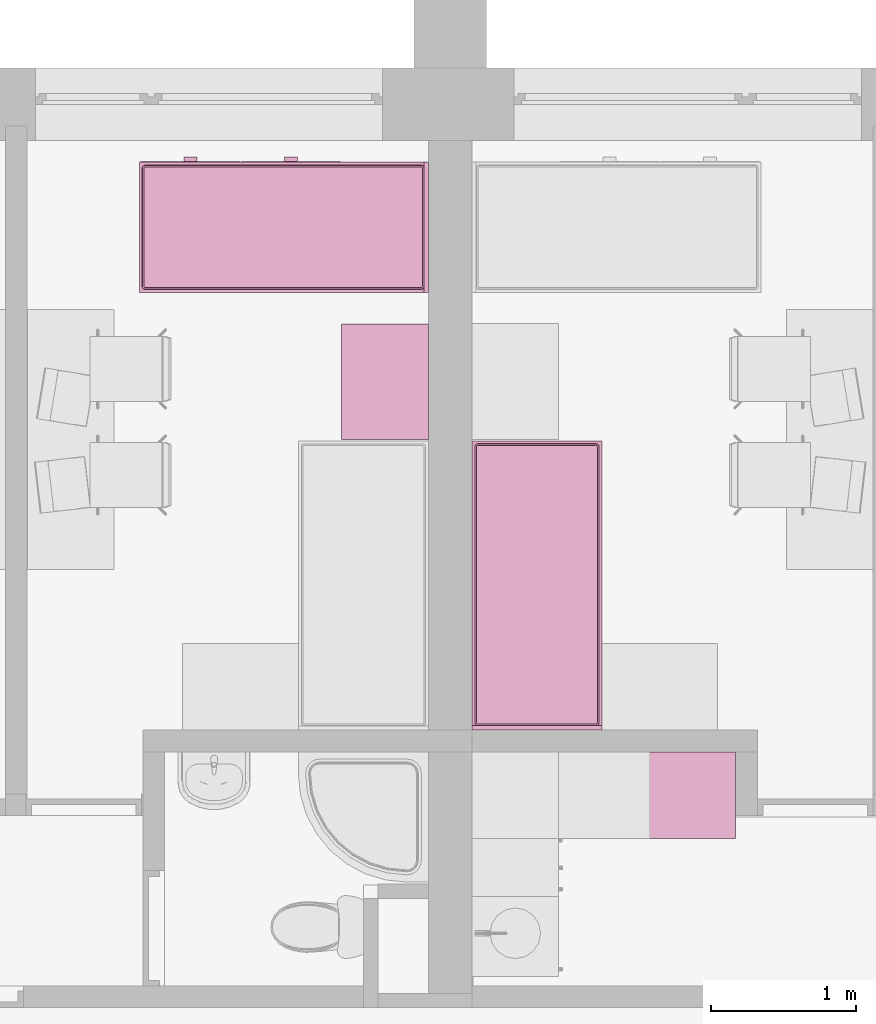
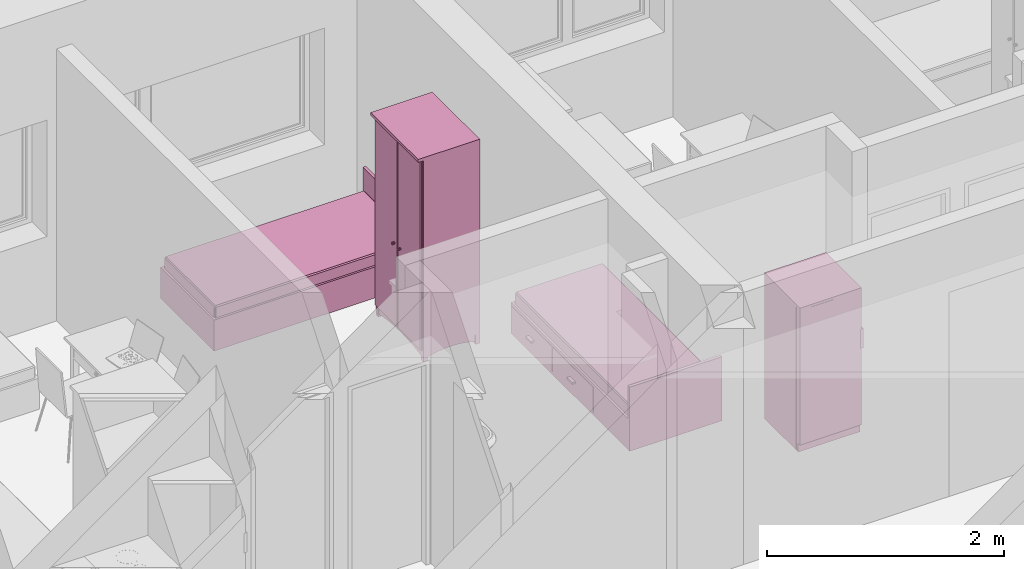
# One storey, part 94 of 165: 4 furnishings.
"""IFC2X3 building model written with IfcOpenShell, lengths in millimetres."""

from ifc_helpers import new_model, entity, si_unit, converted_unit, money_unit, direction, frame, origin_with_axes, place, context, subcontext, project, spatial, open_shell, faceted_brep, surface_model, source, transform, mapped, material, material_list, type_object, element, save


model = new_model("IFC2X3")

# Units and contexts
model_context = context("Model", 3, precision=1e-05, world=origin_with_axes(), true_north=direction((0.0, 1.0)))
body_context = subcontext(model_context, "Body", "Model", "MODEL_VIEW")
ifc_project = project(units=[si_unit("LENGTHUNIT", "METRE", prefix="MILLI"), si_unit("AREAUNIT", "SQUARE_METRE"), si_unit("VOLUMEUNIT", "CUBIC_METRE"), converted_unit("PLANEANGLEUNIT", "DEGREE", entity("IfcPlaneAngleMeasure", 0.0174532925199), si_unit("PLANEANGLEUNIT", "RADIAN"), dimensions=[0, 0, 0, 0, 0, 0, 0]), si_unit("SOLIDANGLEUNIT", "STERADIAN"), money_unit("USD"), converted_unit("TIMEUNIT", "Year", entity("IfcTimeMeasure", 31556926.0), si_unit("TIMEUNIT", "SECOND"), dimensions=[0, 0, 0, 0, 0, 0, 0]), si_unit("MASSUNIT", "GRAM"), si_unit("THERMODYNAMICTEMPERATUREUNIT", "DEGREE_CELSIUS"), si_unit("LUMINOUSINTENSITYUNIT", "LUMEN")], contexts=[model_context])

# Site, building, storey
site_placement = place(None, origin_with_axes())
site = spatial("IfcSite", under=ifc_project, at=site_placement, Name="Site", CompositionType="ELEMENT")
building_placement = place(site_placement, origin_with_axes())
building = spatial("IfcBuilding", under=site, at=building_placement, Name="Building", CompositionType="ELEMENT")
storey_placement = place(building_placement, frame((0.0, 0.0, 6300.0), z_axis=(0.0, 0.0, 1.0), x_axis=(1.0, 0.0, 0.0)))
storey = spatial("IfcBuildingStorey", under=building, at=storey_placement, Name="4KORRUS", CompositionType="ELEMENT", Elevation=6300.0)

# Furnishings
ifc_material = material(Name="Background")
ifc_material_list = material_list([ifc_material])
furnishing_element_type_1 = type_object("IfcFurnishingElementType", Name="Bed 19")
shared_shape_1 = source(origin_with_axes(), body_context, "Body", "Brep", [
    faceted_brep([(900.0, 1970.0, 0.0), (0.0, 1970.0, 0.0), (0.0, 2000.0, 0.0), (900.0, 2000.0, 0.0), (900.0, 1970.0, 660.0), (0.0, 1970.0, 660.0), (0.0, 2000.0, 660.0), (900.0, 2000.0, 660.0)], [[[0, 1, 2, 3]], [[1, 0, 4, 5]], [[2, 1, 5, 6]], [[3, 2, 6, 7]], [[0, 3, 7, 4]], [[5, 4, 7, 6]]]),
    faceted_brep([(900.0, 0.0, 0.0), (0.0, 0.0, 0.0), (0.0, 1970.0, 0.0), (900.0, 1970.0, 0.0), (900.0, 0.0, 320.0), (0.0, 0.0, 320.0), (0.0, 1970.0, 320.0), (900.0, 1970.0, 320.0)], [[[0, 1, 2, 3]], [[1, 0, 4, 5]], [[2, 1, 5, 6]], [[3, 2, 6, 7]], [[0, 3, 7, 4]], [[5, 4, 7, 6]]]),
    faceted_brep([(905.0, 10.0, 30.0), (900.0, 10.0, 30.0), (900.0, 695.0, 30.0), (905.0, 695.0, 30.0), (905.0, 10.0, 290.0), (900.0, 10.0, 290.0), (900.0, 695.0, 290.0), (905.0, 695.0, 290.0)], [[[0, 1, 2, 3]], [[1, 0, 4, 5]], [[2, 1, 5, 6]], [[3, 2, 6, 7]], [[0, 3, 7, 4]], [[5, 4, 7, 6]]]),
    faceted_brep([(935.0, 307.5, 150.0), (905.0, 307.5, 150.0), (905.0, 397.5, 150.0), (935.0, 397.5, 150.0), (935.0, 307.5, 170.0), (905.0, 307.5, 170.0), (905.0, 397.5, 170.0), (935.0, 397.5, 170.0)], [[[0, 1, 2, 3]], [[1, 0, 4, 5]], [[2, 1, 5, 6]], [[3, 2, 6, 7]], [[0, 3, 7, 4]], [[5, 4, 7, 6]]]),
    faceted_brep([(905.0, 705.0, 30.0), (900.0, 705.0, 30.0), (900.0, 1390.0, 30.0), (905.0, 1390.0, 30.0), (905.0, 705.0, 290.0), (900.0, 705.0, 290.0), (900.0, 1390.0, 290.0), (905.0, 1390.0, 290.0)], [[[0, 1, 2, 3]], [[1, 0, 4, 5]], [[2, 1, 5, 6]], [[3, 2, 6, 7]], [[0, 3, 7, 4]], [[5, 4, 7, 6]]]),
    faceted_brep([(935.0, 1002.5, 150.0), (905.0, 1002.5, 150.0), (905.0, 1092.5, 150.0), (935.0, 1092.5, 150.0), (935.0, 1002.5, 170.0), (905.0, 1002.5, 170.0), (905.0, 1092.5, 170.0), (935.0, 1092.5, 170.0)], [[[0, 1, 2, 3]], [[1, 0, 4, 5]], [[2, 1, 5, 6]], [[3, 2, 6, 7]], [[0, 3, 7, 4]], [[5, 4, 7, 6]]]),
    faceted_brep([(20.0, 40.0, 350.0), (20.0, 1950.0, 350.0), (21.522, 1957.654, 350.0), (25.858, 1964.142, 350.0), (32.346, 1968.478, 350.0), (40.0, 1970.0, 350.0), (860.0, 1970.0, 350.0), (867.654, 1968.478, 350.0), (874.142, 1964.142, 350.0), (878.478, 1957.654, 350.0), (880.0, 1950.0, 350.0), (880.0, 40.0, 350.0), (878.478, 32.346, 350.0), (874.142, 25.858, 350.0), (867.654, 21.522, 350.0), (860.0, 20.0, 350.0), (40.0, 20.0, 350.0), (32.346, 21.522, 350.0), (25.858, 25.858, 350.0), (21.522, 32.346, 350.0), (20.0, 40.0, 420.0), (20.0, 1950.0, 420.0), (21.522, 1957.654, 420.0), (25.858, 1964.142, 420.0), (32.346, 1968.478, 420.0), (40.0, 1970.0, 420.0), (860.0, 1970.0, 420.0), (867.654, 1968.478, 420.0), (874.142, 1964.142, 420.0), (878.478, 1957.654, 420.0), (880.0, 1950.0, 420.0), (880.0, 40.0, 420.0), (878.478, 32.346, 420.0), (874.142, 25.858, 420.0), (867.654, 21.522, 420.0), (860.0, 20.0, 420.0), (40.0, 20.0, 420.0), (32.346, 21.522, 420.0), (25.858, 25.858, 420.0), (21.522, 32.346, 420.0), (21.522, 40.15, 427.654), (21.522, 1949.85, 427.654), (22.956, 1957.06, 427.654), (26.955, 1963.045, 427.654), (32.94, 1967.044, 427.654), (40.15, 1968.478, 427.654), (859.85, 1968.478, 427.654), (867.06, 1967.044, 427.654), (873.045, 1963.045, 427.654), (877.044, 1957.06, 427.654), (878.478, 1949.85, 427.654), (878.478, 40.15, 427.654), (877.044, 32.94, 427.654), (873.045, 26.955, 427.654), (867.06, 22.956, 427.654), (859.85, 21.522, 427.654), (40.15, 21.522, 427.654), (32.94, 22.956, 427.654), (26.955, 26.955, 427.654), (22.956, 32.94, 427.654), (32.346, 41.216, 438.478), (32.346, 1948.784, 438.478), (33.152, 1952.836, 438.478), (34.759, 1955.241, 438.478), (37.164, 1956.848, 438.478), (41.216, 1957.654, 438.478), (858.784, 1957.654, 438.478), (862.836, 1956.848, 438.478), (865.241, 1955.241, 438.478), (866.848, 1952.836, 438.478), (867.654, 1948.784, 438.478), (867.654, 41.216, 438.478), (866.848, 37.164, 438.478), (865.241, 34.759, 438.478), (862.836, 33.152, 438.478), (858.784, 32.346, 438.478), (41.216, 32.346, 438.478), (37.164, 33.152, 438.478), (34.759, 34.759, 438.478), (33.152, 37.164, 438.478), (40.0, 41.97, 440.0), (40.0, 1948.03, 440.0), (40.327, 1949.673, 440.0), (40.0, 1950.0, 439.924), (41.97, 1950.0, 440.0), (858.03, 1950.0, 440.0), (859.673, 1949.673, 440.0), (860.0, 1950.0, 439.924), (860.0, 1948.03, 440.0), (860.0, 41.97, 440.0), (859.673, 40.327, 440.0), (860.0, 40.0, 439.924), (858.03, 40.0, 440.0), (41.97, 40.0, 440.0), (40.327, 40.327, 440.0), (40.0, 40.0, 439.924)], [[[0, 1, 2, 3, 4, 5, 6, 7, 8, 9, 10, 11, 12, 13, 14, 15, 16, 17, 18, 19]], [[1, 0, 20, 21]], [[2, 1, 21, 22]], [[3, 2, 22, 23]], [[4, 3, 23, 24]], [[5, 4, 24, 25]], [[6, 5, 25, 26]], [[7, 6, 26, 27]], [[8, 7, 27, 28]], [[9, 8, 28, 29]], [[10, 9, 29, 30]], [[11, 10, 30, 31]], [[12, 11, 31, 32]], [[13, 12, 32, 33]], [[14, 13, 33, 34]], [[15, 14, 34, 35]], [[16, 15, 35, 36]], [[17, 16, 36, 37]], [[18, 17, 37, 38]], [[19, 18, 38, 39]], [[0, 19, 39, 20]], [[21, 20, 40, 41]], [[22, 21, 41, 42]], [[23, 22, 42, 43]], [[24, 23, 43, 44]], [[25, 24, 44, 45]], [[26, 25, 45, 46]], [[27, 26, 46, 47]], [[28, 27, 47, 48]], [[29, 28, 48, 49]], [[30, 29, 49, 50]], [[31, 30, 50, 51]], [[32, 31, 51, 52]], [[33, 32, 52, 53]], [[34, 33, 53, 54]], [[35, 34, 54, 55]], [[36, 35, 55, 56]], [[37, 36, 56, 57]], [[38, 37, 57, 58]], [[39, 38, 58, 59]], [[20, 39, 59, 40]], [[41, 40, 60, 61]], [[42, 41, 61, 62]], [[43, 42, 62, 63]], [[44, 43, 63, 64]], [[45, 44, 64, 65]], [[46, 45, 65, 66]], [[47, 46, 66, 67]], [[48, 47, 67, 68]], [[49, 48, 68, 69]], [[50, 49, 69, 70]], [[51, 50, 70, 71]], [[52, 51, 71, 72]], [[53, 52, 72, 73]], [[54, 53, 73, 74]], [[55, 54, 74, 75]], [[56, 55, 75, 76]], [[57, 56, 76, 77]], [[58, 57, 77, 78]], [[59, 58, 78, 79]], [[40, 59, 79, 60]], [[61, 60, 80, 81]], [[62, 61, 81, 82, 83]], [[63, 62, 83]], [[64, 63, 83]], [[65, 64, 83, 82, 84]], [[66, 65, 84, 85]], [[67, 66, 85, 86, 87]], [[68, 67, 87]], [[69, 68, 87]], [[70, 69, 87, 86, 88]], [[71, 70, 88, 89]], [[72, 71, 89, 90, 91]], [[73, 72, 91]], [[74, 73, 91]], [[75, 74, 91, 90, 92]], [[76, 75, 92, 93]], [[77, 76, 93, 94, 95]], [[78, 77, 95]], [[79, 78, 95]], [[60, 79, 95, 94, 80]], [[81, 80, 94, 93, 92, 90, 89, 88, 86, 85, 84, 82]]]),
    faceted_brep([(20.0, 40.0, 350.0), (21.522, 32.346, 350.0), (25.858, 25.858, 350.0), (32.346, 21.522, 350.0), (40.0, 20.0, 350.0), (860.0, 20.0, 350.0), (867.654, 21.522, 350.0), (874.142, 25.858, 350.0), (878.478, 32.346, 350.0), (880.0, 40.0, 350.0), (880.0, 1950.0, 350.0), (878.478, 1957.654, 350.0), (874.142, 1964.142, 350.0), (867.654, 1968.478, 350.0), (860.0, 1970.0, 350.0), (40.0, 1970.0, 350.0), (32.346, 1968.478, 350.0), (25.858, 1964.142, 350.0), (21.522, 1957.654, 350.0), (20.0, 1950.0, 350.0), (20.0, 40.0, 320.0), (21.522, 32.346, 320.0), (25.858, 25.858, 320.0), (32.346, 21.522, 320.0), (40.0, 20.0, 320.0), (860.0, 20.0, 320.0), (867.654, 21.522, 320.0), (874.142, 25.858, 320.0), (878.478, 32.346, 320.0), (880.0, 40.0, 320.0), (880.0, 1950.0, 320.0), (878.478, 1957.654, 320.0), (874.142, 1964.142, 320.0), (867.654, 1968.478, 320.0), (860.0, 1970.0, 320.0), (40.0, 1970.0, 320.0), (32.346, 1968.478, 320.0), (25.858, 1964.142, 320.0), (21.522, 1957.654, 320.0), (20.0, 1950.0, 320.0)], [[[0, 1, 2, 3, 4, 5, 6, 7, 8, 9, 10, 11, 12, 13, 14, 15, 16, 17, 18, 19]], [[0, 20, 21, 1]], [[1, 21, 22, 2]], [[2, 22, 23, 3]], [[3, 23, 24, 4]], [[4, 24, 25, 5]], [[5, 25, 26, 6]], [[6, 26, 27, 7]], [[7, 27, 28, 8]], [[8, 28, 29, 9]], [[9, 29, 30, 10]], [[10, 30, 31, 11]], [[11, 31, 32, 12]], [[12, 32, 33, 13]], [[13, 33, 34, 14]], [[14, 34, 35, 15]], [[15, 35, 36, 16]], [[16, 36, 37, 17]], [[17, 37, 38, 18]], [[18, 38, 39, 19]], [[19, 39, 20, 0]], [[20, 39, 38, 37, 36, 35, 34, 33, 32, 31, 30, 29, 28, 27, 26, 25, 24, 23, 22, 21]]]),
])
furnishing_1_placement = place(storey_placement, frame((-29090.2967033, -7216.37850445, 0.0), z_axis=(0.0, 0.0, 1.0), x_axis=(-1.0, 0.0, 0.0)))
element("IfcFurnishingElement", 1, at=furnishing_1_placement, inside=storey, type_object=furnishing_element_type_1, material=ifc_material_list, Name="FU - 013", context=body_context, shape_type="MappedRepresentation", body=[
    mapped(shared_shape_1, transform((0.0, 0.0, 0.0))),
])
furnishing_element_type_2 = type_object("IfcFurnishingElementType", Name="Cupboard 19")
shared_shape_2 = source(origin_with_axes(), body_context, "Body", "Brep", [
    faceted_brep([(-780.0, 600.0, 120.0), (-780.0, 580.0, 120.0), (-780.0, 580.0, 2050.0), (-780.0, 600.0, 2050.0), (-20.0, 600.0, 120.0), (-20.0, 580.0, 120.0), (-20.0, 580.0, 2050.0), (-20.0, 600.0, 2050.0)], [[[0, 1, 2, 3]], [[0, 4, 5, 1]], [[1, 5, 6, 2]], [[3, 2, 6, 7]], [[4, 0, 3, 7]], [[5, 4, 7, 6]]]),
    faceted_brep([(0.0, 50.0, 100.0), (-20.0, 50.0, 100.0), (-20.0, 600.0, 100.0), (0.0, 600.0, 100.0), (0.0, 50.0, 2070.0), (-20.0, 50.0, 2070.0), (-20.0, 600.0, 2070.0), (0.0, 600.0, 2070.0)], [[[0, 1, 2, 3]], [[1, 0, 4, 5]], [[2, 1, 5, 6]], [[3, 2, 6, 7]], [[0, 3, 7, 4]], [[5, 4, 7, 6]]]),
    faceted_brep([(-780.0, 50.0, 100.0), (-800.0, 50.0, 100.0), (-800.0, 600.0, 100.0), (-780.0, 600.0, 100.0), (-780.0, 50.0, 2070.0), (-800.0, 50.0, 2070.0), (-800.0, 600.0, 2070.0), (-780.0, 600.0, 2070.0)], [[[0, 1, 2, 3]], [[1, 0, 4, 5]], [[2, 1, 5, 6]], [[3, 2, 6, 7]], [[0, 3, 7, 4]], [[5, 4, 7, 6]]]),
    faceted_brep([(-20.0, 50.0, 100.0), (-780.0, 50.0, 100.0), (-780.0, 600.0, 100.0), (-20.0, 600.0, 100.0), (-20.0, 50.0, 120.0), (-780.0, 50.0, 120.0), (-780.0, 600.0, 120.0), (-20.0, 600.0, 120.0)], [[[0, 1, 2, 3]], [[1, 0, 4, 5]], [[2, 1, 5, 6]], [[3, 2, 6, 7]], [[0, 3, 7, 4]], [[5, 4, 7, 6]]]),
    faceted_brep([(-20.0, 50.0, 2050.0), (-780.0, 50.0, 2050.0), (-780.0, 600.0, 2050.0), (-20.0, 600.0, 2050.0), (-20.0, 50.0, 2070.0), (-780.0, 50.0, 2070.0), (-780.0, 600.0, 2070.0), (-20.0, 600.0, 2070.0)], [[[0, 1, 2, 3]], [[1, 0, 4, 5]], [[2, 1, 5, 6]], [[3, 2, 6, 7]], [[0, 3, 7, 4]], [[5, 4, 7, 6]]]),
    faceted_brep([(0.0, 600.0, 2070.0), (0.0, 600.0, 2100.0), (0.0, 0.0, 2100.0), (0.0, 0.0, 2070.0), (-800.0, 600.0, 2070.0), (-800.0, 600.0, 2100.0), (-800.0, 0.0, 2100.0), (-800.0, 0.0, 2070.0)], [[[0, 1, 2, 3]], [[4, 5, 1, 0]], [[1, 5, 6, 2]], [[3, 2, 6, 7]], [[0, 3, 7, 4]], [[7, 6, 5, 4]]]),
    faceted_brep([(-760.0, 590.0, 25.0), (-640.962, 590.0, 45.8), (-640.962, 570.0, 45.8), (-760.0, 570.0, 25.0), (-760.0, 590.0, 100.0), (-40.0, 590.0, 100.0), (-40.0, 590.0, 25.0), (-159.038, 590.0, 45.8), (-279.23, 590.0, 58.32), (-400.0, 590.0, 62.5), (-520.77, 590.0, 58.32), (-520.77, 570.0, 58.32), (-400.0, 570.0, 62.5), (-279.23, 570.0, 58.32), (-159.038, 570.0, 45.8), (-40.0, 570.0, 25.0), (-40.0, 570.0, 100.0), (-760.0, 570.0, 100.0)], [[[0, 1, 2, 3]], [[0, 4, 5, 6, 7, 8, 9, 10, 1]], [[1, 10, 11, 2]], [[3, 2, 11, 12, 13, 14, 15, 16, 17]], [[4, 0, 3, 17]], [[5, 4, 17, 16]], [[6, 5, 16, 15]], [[7, 6, 15, 14]], [[8, 7, 14, 13]], [[9, 8, 13, 12]], [[10, 9, 12, 11]]]),
    faceted_brep([(-760.0, 80.0, 25.0), (-640.962, 80.0, 45.8), (-640.962, 60.0, 45.8), (-760.0, 60.0, 25.0), (-760.0, 80.0, 100.0), (-40.0, 80.0, 100.0), (-40.0, 80.0, 25.0), (-159.038, 80.0, 45.8), (-279.23, 80.0, 58.32), (-400.0, 80.0, 62.5), (-520.77, 80.0, 58.32), (-520.77, 60.0, 58.32), (-400.0, 60.0, 62.5), (-279.23, 60.0, 58.32), (-159.038, 60.0, 45.8), (-40.0, 60.0, 25.0), (-40.0, 60.0, 100.0), (-760.0, 60.0, 100.0)], [[[0, 1, 2, 3]], [[0, 4, 5, 6, 7, 8, 9, 10, 1]], [[1, 10, 11, 2]], [[3, 2, 11, 12, 13, 14, 15, 16, 17]], [[4, 0, 3, 17]], [[5, 4, 17, 16]], [[6, 5, 16, 15]], [[7, 6, 15, 14]], [[8, 7, 14, 13]], [[9, 8, 13, 12]], [[10, 9, 12, 11]]]),
    faceted_brep([(-790.0, 90.0, 25.0), (-790.0, 141.266, 38.072), (-770.0, 141.266, 38.072), (-770.0, 90.0, 25.0), (-790.0, 90.0, 100.0), (-790.0, 560.0, 100.0), (-790.0, 560.0, 25.0), (-790.0, 508.734, 38.072), (-790.0, 456.752, 47.92), (-790.0, 404.257, 54.508), (-790.0, 351.453, 57.808), (-790.0, 298.547, 57.808), (-790.0, 245.743, 54.508), (-790.0, 193.248, 47.92), (-770.0, 193.248, 47.92), (-770.0, 245.743, 54.508), (-770.0, 298.547, 57.808), (-770.0, 351.453, 57.808), (-770.0, 404.257, 54.508), (-770.0, 456.752, 47.92), (-770.0, 508.734, 38.072), (-770.0, 560.0, 25.0), (-770.0, 560.0, 100.0), (-770.0, 90.0, 100.0)], [[[0, 1, 2, 3]], [[0, 4, 5, 6, 7, 8, 9, 10, 11, 12, 13, 1]], [[1, 13, 14, 2]], [[3, 2, 14, 15, 16, 17, 18, 19, 20, 21, 22, 23]], [[4, 0, 3, 23]], [[5, 4, 23, 22]], [[6, 5, 22, 21]], [[7, 6, 21, 20]], [[8, 7, 20, 19]], [[9, 8, 19, 18]], [[10, 9, 18, 17]], [[11, 10, 17, 16]], [[12, 11, 16, 15]], [[13, 12, 15, 14]]]),
    faceted_brep([(-30.0, 90.0, 25.0), (-30.0, 141.266, 38.072), (-10.0, 141.266, 38.072), (-10.0, 90.0, 25.0), (-30.0, 90.0, 100.0), (-30.0, 560.0, 100.0), (-30.0, 560.0, 25.0), (-30.0, 508.734, 38.072), (-30.0, 456.752, 47.92), (-30.0, 404.257, 54.508), (-30.0, 351.453, 57.808), (-30.0, 298.547, 57.808), (-30.0, 245.743, 54.508), (-30.0, 193.248, 47.92), (-10.0, 193.248, 47.92), (-10.0, 245.743, 54.508), (-10.0, 298.547, 57.808), (-10.0, 351.453, 57.808), (-10.0, 404.257, 54.508), (-10.0, 456.752, 47.92), (-10.0, 508.734, 38.072), (-10.0, 560.0, 25.0), (-10.0, 560.0, 100.0), (-10.0, 90.0, 100.0)], [[[0, 1, 2, 3]], [[0, 4, 5, 6, 7, 8, 9, 10, 11, 12, 13, 1]], [[1, 13, 14, 2]], [[3, 2, 14, 15, 16, 17, 18, 19, 20, 21, 22, 23]], [[4, 0, 3, 23]], [[5, 4, 23, 22]], [[6, 5, 22, 21]], [[7, 6, 21, 20]], [[8, 7, 20, 19]], [[9, 8, 19, 18]], [[10, 9, 18, 17]], [[11, 10, 17, 16]], [[12, 11, 16, 15]], [[13, 12, 15, 14]]]),
    faceted_brep([(-760.0, 560.0, 0.0), (-760.0, 600.0, 0.0), (-760.0, 600.0, 100.0), (-760.0, 560.0, 100.0), (-800.0, 560.0, 0.0), (-800.0, 600.0, 0.0), (-800.0, 600.0, 100.0), (-800.0, 560.0, 100.0)], [[[0, 1, 2, 3]], [[0, 4, 5, 1]], [[1, 5, 6, 2]], [[3, 2, 6, 7]], [[4, 0, 3, 7]], [[5, 4, 7, 6]]]),
    faceted_brep([(0.0, 560.0, 0.0), (0.0, 600.0, 0.0), (0.0, 600.0, 100.0), (0.0, 560.0, 100.0), (-40.0, 560.0, 0.0), (-40.0, 600.0, 0.0), (-40.0, 600.0, 100.0), (-40.0, 560.0, 100.0)], [[[0, 1, 2, 3]], [[0, 4, 5, 1]], [[1, 5, 6, 2]], [[3, 2, 6, 7]], [[4, 0, 3, 7]], [[5, 4, 7, 6]]]),
    faceted_brep([(-760.0, 50.0, 0.0), (-760.0, 90.0, 0.0), (-760.0, 90.0, 100.0), (-760.0, 50.0, 100.0), (-800.0, 50.0, 0.0), (-800.0, 90.0, 0.0), (-800.0, 90.0, 100.0), (-800.0, 50.0, 100.0)], [[[0, 1, 2, 3]], [[0, 4, 5, 1]], [[1, 5, 6, 2]], [[3, 2, 6, 7]], [[4, 0, 3, 7]], [[5, 4, 7, 6]]]),
    faceted_brep([(0.0, 50.0, 0.0), (0.0, 90.0, 0.0), (0.0, 90.0, 100.0), (0.0, 50.0, 100.0), (-40.0, 50.0, 0.0), (-40.0, 90.0, 0.0), (-40.0, 90.0, 100.0), (-40.0, 50.0, 100.0)], [[[0, 1, 2, 3]], [[0, 4, 5, 1]], [[1, 5, 6, 2]], [[3, 2, 6, 7]], [[4, 0, 3, 7]], [[5, 4, 7, 6]]]),
    faceted_brep([(-780.0, 580.0, 587.5), (-780.0, 50.0, 587.5), (-780.0, 50.0, 607.5), (-780.0, 580.0, 607.5), (-20.0, 580.0, 587.5), (-20.0, 50.0, 587.5), (-20.0, 50.0, 607.5), (-20.0, 580.0, 607.5)], [[[0, 1, 2, 3]], [[0, 4, 5, 1]], [[1, 5, 6, 2]], [[3, 2, 6, 7]], [[4, 0, 3, 7]], [[5, 4, 7, 6]]]),
    faceted_brep([(-780.0, 580.0, 1075.0), (-780.0, 50.0, 1075.0), (-780.0, 50.0, 1095.0), (-780.0, 580.0, 1095.0), (-20.0, 580.0, 1075.0), (-20.0, 50.0, 1075.0), (-20.0, 50.0, 1095.0), (-20.0, 580.0, 1095.0)], [[[0, 1, 2, 3]], [[0, 4, 5, 1]], [[1, 5, 6, 2]], [[3, 2, 6, 7]], [[4, 0, 3, 7]], [[5, 4, 7, 6]]]),
    faceted_brep([(-780.0, 580.0, 1562.5), (-780.0, 50.0, 1562.5), (-780.0, 50.0, 1582.5), (-780.0, 580.0, 1582.5), (-20.0, 580.0, 1562.5), (-20.0, 50.0, 1562.5), (-20.0, 50.0, 1582.5), (-20.0, 580.0, 1582.5)], [[[0, 1, 2, 3]], [[0, 4, 5, 1]], [[1, 5, 6, 2]], [[3, 2, 6, 7]], [[4, 0, 3, 7]], [[5, 4, 7, 6]]]),
    faceted_brep([(-789.5, 50.0, 110.5), (-789.5, 50.0, 2059.5), (-400.5, 50.0, 2059.5), (-400.5, 50.0, 110.5), (-789.5, 40.0, 110.5), (-789.5, 40.0, 2059.5), (-400.5, 40.0, 2059.5), (-400.5, 40.0, 110.5), (-779.5, 30.0, 120.5), (-779.5, 30.0, 2049.5), (-410.5, 30.0, 2049.5), (-410.5, 30.0, 120.5)], [[[0, 1, 2, 3]], [[1, 0, 4, 5]], [[2, 1, 5, 6]], [[3, 2, 6, 7]], [[0, 3, 7, 4]], [[5, 4, 8, 9]], [[6, 5, 9, 10]], [[7, 6, 10, 11]], [[4, 7, 11, 8]], [[10, 9, 8, 11]]]),
    faceted_brep([(-399.5, 50.0, 110.5), (-399.5, 50.0, 2059.5), (-10.5, 50.0, 2059.5), (-10.5, 50.0, 110.5), (-399.5, 40.0, 110.5), (-399.5, 40.0, 2059.5), (-10.5, 40.0, 2059.5), (-10.5, 40.0, 110.5), (-389.5, 30.0, 120.5), (-389.5, 30.0, 2049.5), (-20.5, 30.0, 2049.5), (-20.5, 30.0, 120.5)], [[[0, 1, 2, 3]], [[1, 0, 4, 5]], [[2, 1, 5, 6]], [[3, 2, 6, 7]], [[0, 3, 7, 4]], [[5, 4, 8, 9]], [[6, 5, 9, 10]], [[7, 6, 10, 11]], [[4, 7, 11, 8]], [[10, 9, 8, 11]]]),
    faceted_brep([(-339.608, 30.0, 954.0), (-344.0, 30.0, 949.608), (-350.0, 30.0, 948.0), (-356.0, 30.0, 949.608), (-360.392, 30.0, 954.0), (-362.0, 30.0, 960.0), (-360.392, 30.0, 966.0), (-356.0, 30.0, 970.392), (-350.0, 30.0, 972.0), (-344.0, 30.0, 970.392), (-339.608, 30.0, 966.0), (-338.0, 30.0, 960.0), (-339.608, 5.0, 954.0), (-344.0, 5.0, 949.608), (-350.0, 5.0, 948.0), (-356.0, 5.0, 949.608), (-360.392, 5.0, 954.0), (-362.0, 5.0, 960.0), (-360.392, 5.0, 966.0), (-356.0, 5.0, 970.392), (-350.0, 5.0, 972.0), (-344.0, 5.0, 970.392), (-339.608, 5.0, 966.0), (-338.0, 5.0, 960.0)], [[[0, 1, 2, 3, 4, 5, 6, 7, 8, 9, 10, 11]], [[1, 0, 12, 13]], [[2, 1, 13, 14]], [[3, 2, 14, 15]], [[4, 3, 15, 16]], [[5, 4, 16, 17]], [[6, 5, 17, 18]], [[7, 6, 18, 19]], [[8, 7, 19, 20]], [[9, 8, 20, 21]], [[10, 9, 21, 22]], [[11, 10, 22, 23]], [[0, 11, 23, 12]], [[12, 23, 22, 21, 20, 19, 18, 17, 16, 15, 14, 13]]]),
    faceted_brep([(-460.392, 30.0, 954.0), (-462.0, 30.0, 960.0), (-460.392, 30.0, 966.0), (-456.0, 30.0, 970.392), (-450.0, 30.0, 972.0), (-444.0, 30.0, 970.392), (-439.608, 30.0, 966.0), (-438.0, 30.0, 960.0), (-439.608, 30.0, 954.0), (-444.0, 30.0, 949.608), (-450.0, 30.0, 948.0), (-456.0, 30.0, 949.608), (-460.392, 5.0, 954.0), (-462.0, 5.0, 960.0), (-460.392, 5.0, 966.0), (-456.0, 5.0, 970.392), (-450.0, 5.0, 972.0), (-444.0, 5.0, 970.392), (-439.608, 5.0, 966.0), (-438.0, 5.0, 960.0), (-439.608, 5.0, 954.0), (-444.0, 5.0, 949.608), (-450.0, 5.0, 948.0), (-456.0, 5.0, 949.608)], [[[0, 1, 2, 3, 4, 5, 6, 7, 8, 9, 10, 11]], [[0, 12, 13, 1]], [[1, 13, 14, 2]], [[2, 14, 15, 3]], [[3, 15, 16, 4]], [[4, 16, 17, 5]], [[5, 17, 18, 6]], [[6, 18, 19, 7]], [[7, 19, 20, 8]], [[8, 20, 21, 9]], [[9, 21, 22, 10]], [[10, 22, 23, 11]], [[11, 23, 12, 0]], [[12, 23, 22, 21, 20, 19, 18, 17, 16, 15, 14, 13]]]),
])
furnishing_2_placement = place(storey_placement, frame((-30890.2967033, -7207.41563755, 0.0), z_axis=(0.0, 0.0, 1.0), x_axis=(0.0, -1.0, 0.0)))
element("IfcFurnishingElement", 2, at=furnishing_2_placement, inside=storey, type_object=furnishing_element_type_2, material=ifc_material_list, Name="FU - 014", context=body_context, shape_type="MappedRepresentation", body=[
    mapped(shared_shape_2, transform((0.0, 0.0, 0.0))),
])
shared_shape_3 = source(origin_with_axes(), body_context, "Body", "Brep", [
    faceted_brep([(-900.0, 1970.0, 0.0), (-900.0, 2000.0, 0.0), (0.0, 2000.0, 0.0), (0.0, 1970.0, 0.0), (-900.0, 1970.0, 660.0), (-900.0, 2000.0, 660.0), (0.0, 2000.0, 660.0), (0.0, 1970.0, 660.0)], [[[0, 1, 2, 3]], [[0, 4, 5, 1]], [[1, 5, 6, 2]], [[2, 6, 7, 3]], [[3, 7, 4, 0]], [[7, 6, 5, 4]]]),
    faceted_brep([(-900.0, 0.0, 0.0), (-900.0, 1970.0, 0.0), (0.0, 1970.0, 0.0), (0.0, 0.0, 0.0), (-900.0, 0.0, 320.0), (-900.0, 1970.0, 320.0), (0.0, 1970.0, 320.0), (0.0, 0.0, 320.0)], [[[0, 1, 2, 3]], [[0, 4, 5, 1]], [[1, 5, 6, 2]], [[2, 6, 7, 3]], [[3, 7, 4, 0]], [[7, 6, 5, 4]]]),
    faceted_brep([(-905.0, 10.0, 30.0), (-905.0, 695.0, 30.0), (-900.0, 695.0, 30.0), (-900.0, 10.0, 30.0), (-905.0, 10.0, 290.0), (-905.0, 695.0, 290.0), (-900.0, 695.0, 290.0), (-900.0, 10.0, 290.0)], [[[0, 1, 2, 3]], [[0, 4, 5, 1]], [[1, 5, 6, 2]], [[2, 6, 7, 3]], [[3, 7, 4, 0]], [[7, 6, 5, 4]]]),
    faceted_brep([(-935.0, 307.5, 150.0), (-935.0, 397.5, 150.0), (-905.0, 397.5, 150.0), (-905.0, 307.5, 150.0), (-935.0, 307.5, 170.0), (-935.0, 397.5, 170.0), (-905.0, 397.5, 170.0), (-905.0, 307.5, 170.0)], [[[0, 1, 2, 3]], [[0, 4, 5, 1]], [[1, 5, 6, 2]], [[2, 6, 7, 3]], [[3, 7, 4, 0]], [[7, 6, 5, 4]]]),
    faceted_brep([(-905.0, 705.0, 30.0), (-905.0, 1390.0, 30.0), (-900.0, 1390.0, 30.0), (-900.0, 705.0, 30.0), (-905.0, 705.0, 290.0), (-905.0, 1390.0, 290.0), (-900.0, 1390.0, 290.0), (-900.0, 705.0, 290.0)], [[[0, 1, 2, 3]], [[0, 4, 5, 1]], [[1, 5, 6, 2]], [[2, 6, 7, 3]], [[3, 7, 4, 0]], [[7, 6, 5, 4]]]),
    faceted_brep([(-935.0, 1002.5, 150.0), (-935.0, 1092.5, 150.0), (-905.0, 1092.5, 150.0), (-905.0, 1002.5, 150.0), (-935.0, 1002.5, 170.0), (-935.0, 1092.5, 170.0), (-905.0, 1092.5, 170.0), (-905.0, 1002.5, 170.0)], [[[0, 1, 2, 3]], [[0, 4, 5, 1]], [[1, 5, 6, 2]], [[2, 6, 7, 3]], [[3, 7, 4, 0]], [[7, 6, 5, 4]]]),
    faceted_brep([(-20.0, 40.0, 350.0), (-21.522, 32.346, 350.0), (-25.858, 25.858, 350.0), (-32.346, 21.522, 350.0), (-40.0, 20.0, 350.0), (-860.0, 20.0, 350.0), (-867.654, 21.522, 350.0), (-874.142, 25.858, 350.0), (-878.478, 32.346, 350.0), (-880.0, 40.0, 350.0), (-880.0, 1950.0, 350.0), (-878.478, 1957.654, 350.0), (-874.142, 1964.142, 350.0), (-867.654, 1968.478, 350.0), (-860.0, 1970.0, 350.0), (-40.0, 1970.0, 350.0), (-32.346, 1968.478, 350.0), (-25.858, 1964.142, 350.0), (-21.522, 1957.654, 350.0), (-20.0, 1950.0, 350.0), (-20.0, 40.0, 420.0), (-21.522, 32.346, 420.0), (-25.858, 25.858, 420.0), (-32.346, 21.522, 420.0), (-40.0, 20.0, 420.0), (-860.0, 20.0, 420.0), (-867.654, 21.522, 420.0), (-874.142, 25.858, 420.0), (-878.478, 32.346, 420.0), (-880.0, 40.0, 420.0), (-880.0, 1950.0, 420.0), (-878.478, 1957.654, 420.0), (-874.142, 1964.142, 420.0), (-867.654, 1968.478, 420.0), (-860.0, 1970.0, 420.0), (-40.0, 1970.0, 420.0), (-32.346, 1968.478, 420.0), (-25.858, 1964.142, 420.0), (-21.522, 1957.654, 420.0), (-20.0, 1950.0, 420.0), (-21.522, 40.15, 427.654), (-22.956, 32.94, 427.654), (-26.955, 26.955, 427.654), (-32.94, 22.956, 427.654), (-40.15, 21.522, 427.654), (-859.85, 21.522, 427.654), (-867.06, 22.956, 427.654), (-873.045, 26.955, 427.654), (-877.044, 32.94, 427.654), (-878.478, 40.15, 427.654), (-878.478, 1949.85, 427.654), (-877.044, 1957.06, 427.654), (-873.045, 1963.045, 427.654), (-867.06, 1967.044, 427.654), (-859.85, 1968.478, 427.654), (-40.15, 1968.478, 427.654), (-32.94, 1967.044, 427.654), (-26.955, 1963.045, 427.654), (-22.956, 1957.06, 427.654), (-21.522, 1949.85, 427.654), (-32.346, 41.216, 438.478), (-33.152, 37.164, 438.478), (-34.759, 34.759, 438.478), (-37.164, 33.152, 438.478), (-41.216, 32.346, 438.478), (-858.784, 32.346, 438.478), (-862.836, 33.152, 438.478), (-865.241, 34.759, 438.478), (-866.848, 37.164, 438.478), (-867.654, 41.216, 438.478), (-867.654, 1948.784, 438.478), (-866.848, 1952.836, 438.478), (-865.241, 1955.241, 438.478), (-862.836, 1956.848, 438.478), (-858.784, 1957.654, 438.478), (-41.216, 1957.654, 438.478), (-37.164, 1956.848, 438.478), (-34.759, 1955.241, 438.478), (-33.152, 1952.836, 438.478), (-32.346, 1948.784, 438.478), (-40.0, 41.97, 440.0), (-40.327, 40.327, 440.0), (-40.0, 40.0, 439.924), (-41.97, 40.0, 440.0), (-858.03, 40.0, 440.0), (-859.673, 40.327, 440.0), (-860.0, 40.0, 439.924), (-860.0, 41.97, 440.0), (-860.0, 1948.03, 440.0), (-859.673, 1949.673, 440.0), (-860.0, 1950.0, 439.924), (-858.03, 1950.0, 440.0), (-41.97, 1950.0, 440.0), (-40.327, 1949.673, 440.0), (-40.0, 1950.0, 439.924), (-40.0, 1948.03, 440.0)], [[[0, 1, 2, 3, 4, 5, 6, 7, 8, 9, 10, 11, 12, 13, 14, 15, 16, 17, 18, 19]], [[0, 20, 21, 1]], [[1, 21, 22, 2]], [[2, 22, 23, 3]], [[3, 23, 24, 4]], [[4, 24, 25, 5]], [[5, 25, 26, 6]], [[6, 26, 27, 7]], [[7, 27, 28, 8]], [[8, 28, 29, 9]], [[9, 29, 30, 10]], [[10, 30, 31, 11]], [[11, 31, 32, 12]], [[12, 32, 33, 13]], [[13, 33, 34, 14]], [[14, 34, 35, 15]], [[15, 35, 36, 16]], [[16, 36, 37, 17]], [[17, 37, 38, 18]], [[18, 38, 39, 19]], [[19, 39, 20, 0]], [[20, 40, 41, 21]], [[21, 41, 42, 22]], [[22, 42, 43, 23]], [[23, 43, 44, 24]], [[24, 44, 45, 25]], [[25, 45, 46, 26]], [[26, 46, 47, 27]], [[27, 47, 48, 28]], [[28, 48, 49, 29]], [[29, 49, 50, 30]], [[30, 50, 51, 31]], [[31, 51, 52, 32]], [[32, 52, 53, 33]], [[33, 53, 54, 34]], [[34, 54, 55, 35]], [[35, 55, 56, 36]], [[36, 56, 57, 37]], [[37, 57, 58, 38]], [[38, 58, 59, 39]], [[39, 59, 40, 20]], [[40, 60, 61, 41]], [[41, 61, 62, 42]], [[42, 62, 63, 43]], [[43, 63, 64, 44]], [[44, 64, 65, 45]], [[45, 65, 66, 46]], [[46, 66, 67, 47]], [[47, 67, 68, 48]], [[48, 68, 69, 49]], [[49, 69, 70, 50]], [[50, 70, 71, 51]], [[51, 71, 72, 52]], [[52, 72, 73, 53]], [[53, 73, 74, 54]], [[54, 74, 75, 55]], [[55, 75, 76, 56]], [[56, 76, 77, 57]], [[57, 77, 78, 58]], [[58, 78, 79, 59]], [[59, 79, 60, 40]], [[60, 80, 81, 82, 61]], [[61, 82, 62]], [[62, 82, 63]], [[63, 82, 81, 83, 64]], [[64, 83, 84, 65]], [[65, 84, 85, 86, 66]], [[66, 86, 67]], [[67, 86, 68]], [[68, 86, 85, 87, 69]], [[69, 87, 88, 70]], [[70, 88, 89, 90, 71]], [[71, 90, 72]], [[72, 90, 73]], [[73, 90, 89, 91, 74]], [[74, 91, 92, 75]], [[75, 92, 93, 94, 76]], [[76, 94, 77]], [[77, 94, 78]], [[78, 94, 93, 95, 79]], [[79, 95, 80, 60]], [[95, 93, 92, 91, 89, 88, 87, 85, 84, 83, 81, 80]]]),
    faceted_brep([(-20.0, 40.0, 350.0), (-20.0, 1950.0, 350.0), (-21.522, 1957.654, 350.0), (-25.858, 1964.142, 350.0), (-32.346, 1968.478, 350.0), (-40.0, 1970.0, 350.0), (-860.0, 1970.0, 350.0), (-867.654, 1968.478, 350.0), (-874.142, 1964.142, 350.0), (-878.478, 1957.654, 350.0), (-880.0, 1950.0, 350.0), (-880.0, 40.0, 350.0), (-878.478, 32.346, 350.0), (-874.142, 25.858, 350.0), (-867.654, 21.522, 350.0), (-860.0, 20.0, 350.0), (-40.0, 20.0, 350.0), (-32.346, 21.522, 350.0), (-25.858, 25.858, 350.0), (-21.522, 32.346, 350.0), (-20.0, 40.0, 320.0), (-20.0, 1950.0, 320.0), (-21.522, 1957.654, 320.0), (-25.858, 1964.142, 320.0), (-32.346, 1968.478, 320.0), (-40.0, 1970.0, 320.0), (-860.0, 1970.0, 320.0), (-867.654, 1968.478, 320.0), (-874.142, 1964.142, 320.0), (-878.478, 1957.654, 320.0), (-880.0, 1950.0, 320.0), (-880.0, 40.0, 320.0), (-878.478, 32.346, 320.0), (-874.142, 25.858, 320.0), (-867.654, 21.522, 320.0), (-860.0, 20.0, 320.0), (-40.0, 20.0, 320.0), (-32.346, 21.522, 320.0), (-25.858, 25.858, 320.0), (-21.522, 32.346, 320.0)], [[[0, 1, 2, 3, 4, 5, 6, 7, 8, 9, 10, 11, 12, 13, 14, 15, 16, 17, 18, 19]], [[1, 0, 20, 21]], [[2, 1, 21, 22]], [[3, 2, 22, 23]], [[4, 3, 23, 24]], [[5, 4, 24, 25]], [[6, 5, 25, 26]], [[7, 6, 26, 27]], [[8, 7, 27, 28]], [[9, 8, 28, 29]], [[10, 9, 29, 30]], [[11, 10, 30, 31]], [[12, 11, 31, 32]], [[13, 12, 32, 33]], [[14, 13, 33, 34]], [[15, 14, 34, 35]], [[16, 15, 35, 36]], [[17, 16, 36, 37]], [[18, 17, 37, 38]], [[19, 18, 38, 39]], [[0, 19, 39, 20]], [[20, 39, 38, 37, 36, 35, 34, 33, 32, 31, 30, 29, 28, 27, 26, 25, 24, 23, 22, 21]]]),
])
furnishing_3_placement = place(storey_placement, frame((-32290.2967033, -6189.6041088, 0.0), z_axis=(0.0, 0.0, 1.0), x_axis=(0.0, -1.0, 0.0)))
element("IfcFurnishingElement", 3, at=furnishing_3_placement, inside=storey, type_object=furnishing_element_type_1, material=ifc_material_list, Name="FU - 013", context=body_context, shape_type="MappedRepresentation", body=[
    mapped(shared_shape_3, transform((0.0, 0.0, 0.0))),
])
furnishing_element_type_3 = type_object("IfcFurnishingElementType", Name="Refrigerator 19")
shared_shape_4 = source(origin_with_axes(), body_context, "Body", "SurfaceModel", [
    faceted_brep([(0.0, 0.0, 1475.0), (600.0, 0.0, 1475.0), (600.0, 0.0, 1500.0), (0.0, 0.0, 1500.0), (0.0, 600.0, 1475.0), (600.0, 600.0, 1475.0), (600.0, 600.0, 1500.0), (0.0, 600.0, 1500.0)], [[[0, 1, 2, 3]], [[0, 4, 5, 1]], [[1, 5, 6, 2]], [[3, 2, 6, 7]], [[4, 0, 3, 7]], [[5, 4, 7, 6]]]),
    faceted_brep([(0.0, 65.0, 0.0), (600.0, 65.0, 0.0), (600.0, 65.0, 1475.0), (0.0, 65.0, 1475.0), (0.0, 600.0, 0.0), (600.0, 600.0, 0.0), (600.0, 600.0, 1475.0), (0.0, 600.0, 1475.0)], [[[0, 1, 2, 3]], [[0, 4, 5, 1]], [[1, 5, 6, 2]], [[3, 2, 6, 7]], [[4, 0, 3, 7]], [[5, 4, 7, 6]]]),
    faceted_brep([(0.0, 30.0, 0.0), (600.0, 30.0, 0.0), (600.0, 30.0, 90.0), (0.0, 30.0, 90.0), (0.0, 60.0, 0.0), (600.0, 60.0, 0.0), (600.0, 60.0, 90.0), (0.0, 60.0, 90.0)], [[[0, 1, 2, 3]], [[0, 4, 5, 1]], [[1, 5, 6, 2]], [[3, 2, 6, 7]], [[4, 0, 3, 7]], [[5, 4, 7, 6]]]),
    faceted_brep([(0.0, 60.0, 90.0), (600.0, 60.0, 90.0), (600.0, 0.0, 90.0), (0.0, 0.0, 90.0), (0.0, 60.0, 1474.5), (600.0, 60.0, 1474.5), (600.0, 0.0, 1474.5), (0.0, 0.0, 1474.5)], [[[0, 1, 2, 3]], [[0, 4, 5, 1]], [[1, 5, 6, 2]], [[3, 2, 6, 7]], [[4, 0, 3, 7]], [[5, 4, 7, 6]]]),
    surface_model("IfcShellBasedSurfaceModel", [(600.0, -30.0, 900.0), (600.0, -30.0, 1100.0), (600.0, 0.0, 1100.0), (600.0, 0.0, 900.0)], [open_shell([[[0, 1, 2, 3]]])]),
    surface_model("IfcShellBasedSurfaceModel", [(600.0, -30.0, 900.0), (600.0, -30.0, 1100.0), (570.0, -30.0, 1100.0), (570.0, -30.0, 900.0)], [open_shell([[[0, 1, 2, 3]]])]),
])
furnishing_4_placement = place(storey_placement, frame((-28765.7435229, -9966.37850445, 0.0), z_axis=(0.0, 0.0, 1.0), x_axis=(1.0, 0.0, 0.0)))
element("IfcFurnishingElement", 4, at=furnishing_4_placement, inside=storey, type_object=furnishing_element_type_3, material=ifc_material_list, Name="FU - 007", context=body_context, shape_type="MappedRepresentation", body=[
    mapped(shared_shape_4, transform((0.0, 0.0, 0.0))),
])

save(model, "model.ifc")
